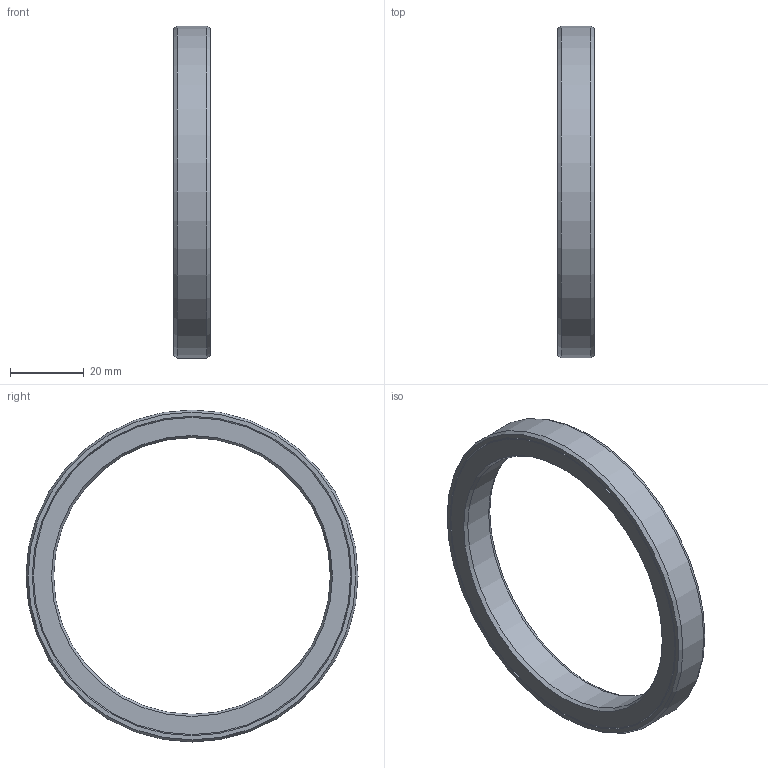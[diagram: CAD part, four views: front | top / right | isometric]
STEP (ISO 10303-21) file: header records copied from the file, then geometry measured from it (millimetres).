
FILE_DESCRIPTION(/* description */ (''),/* implementation_level */ '2;1');
FILE_NAME(/* name */ '301257 L 75x90x10.stp',/* time_stamp */ '2016-12-15T10:00:34+01:00',/* author */ (''),/* organization */ (''),/* preprocessor_version */ 'ST-DEVELOPER v15',/* originating_system */ 'SIEMENS PLM Software NX 8.5',/* authorisation */ '');
FILE_SCHEMA (('CONFIG_CONTROL_DESIGN'));
Length unit declared in the file: millimetre
Products named in the file (1): ATE0000122_01
Bounding box: 10 x 90 x 90 mm (x, y, z)
Volume: 18195.2 mm3; surface area: 14754.1 mm2
Topology: 2 solids, 2 shells, 18 faces, 34 edges, 20 vertices
Faces by surface type: cone 12, plane 4, cylinder 2
Full cylindrical faces by diameter (mm): 75 x1, 90 x1
Entity records: 454 total; most frequent: DIRECTION 74, CARTESIAN_POINT 55, AXIS2_PLACEMENT_3D 37, FACE_BOUND 36, EDGE_LOOP 36, ORIENTED_EDGE 36, ADVANCED_FACE 18, VERTEX_POINT 18
